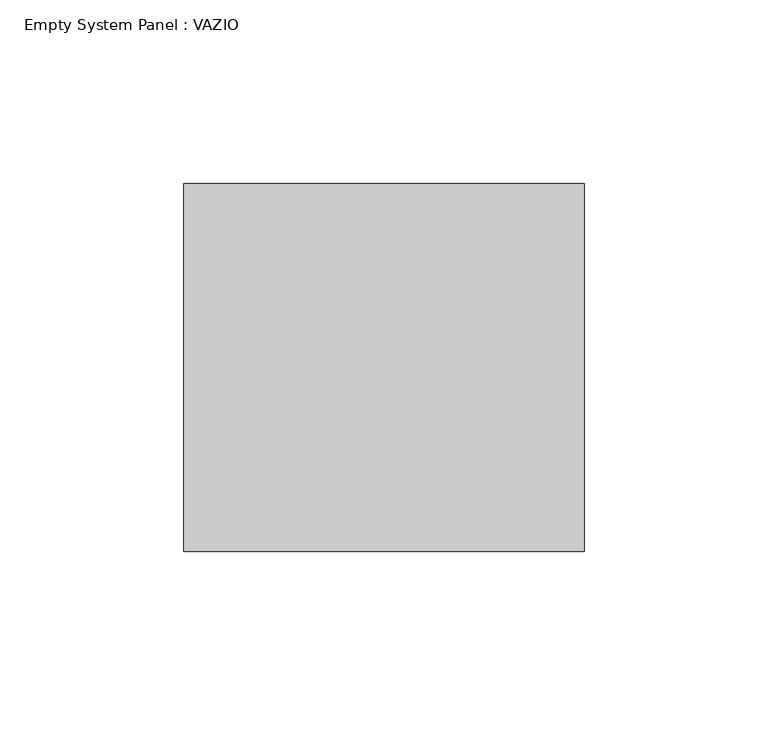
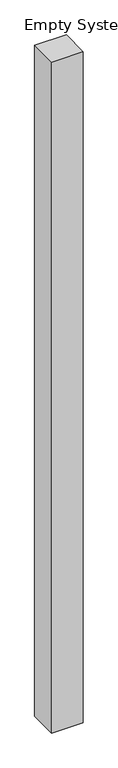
"""IFC4 building model written with IfcOpenShell, lengths in millimetres: plate geometry, Empty System Panel : VAZIO."""

from ifc_helpers import new_model, si_unit, origin, origin_with_axes, place, context, project, spatial, polyline, outline, extrude, source, transform, mapped, element, save


def empty_system_panel_vazio_61c9f610(model_context):
    return source(origin(), model_context, "Body", "SweptSolid", [
        extrude(outline(polyline([(54.3902439, -50.0), (-54.3902439, -50.0), (-54.3902439, 50.0), (54.3902439, 50.0), (54.3902439, -50.0)])), origin_with_axes(), (0.0, 0.0, 1.0), 2433.2063533),
    ])


if __name__ == "__main__":
    model = new_model("IFC4")
    model_context = context("Model", 3, world=origin())
    ifc_project = project(units=[si_unit("LENGTHUNIT", "METRE", prefix="MILLI")], contexts=[model_context])
    site = spatial("IfcSite", under=ifc_project)
    building = spatial("IfcBuilding", under=site)
    placement = place(None, origin())
    empty_system_panel_vazio_shape = empty_system_panel_vazio_61c9f610(model_context)
    element("IfcPlate", 1, ObjectType="Empty System Panel : VAZIO", at=placement, inside=building, context=model_context, shape_type="MappedRepresentation", body=[
        mapped(empty_system_panel_vazio_shape, transform((0.0, 0.0, 0.0), x_axis=(1.0, 0.0, 0.0), y_axis=(0.0, 1.0, 0.0), z_axis=(0.0, 0.0, 1.0))),
    ])
    save(model, "model.ifc")
